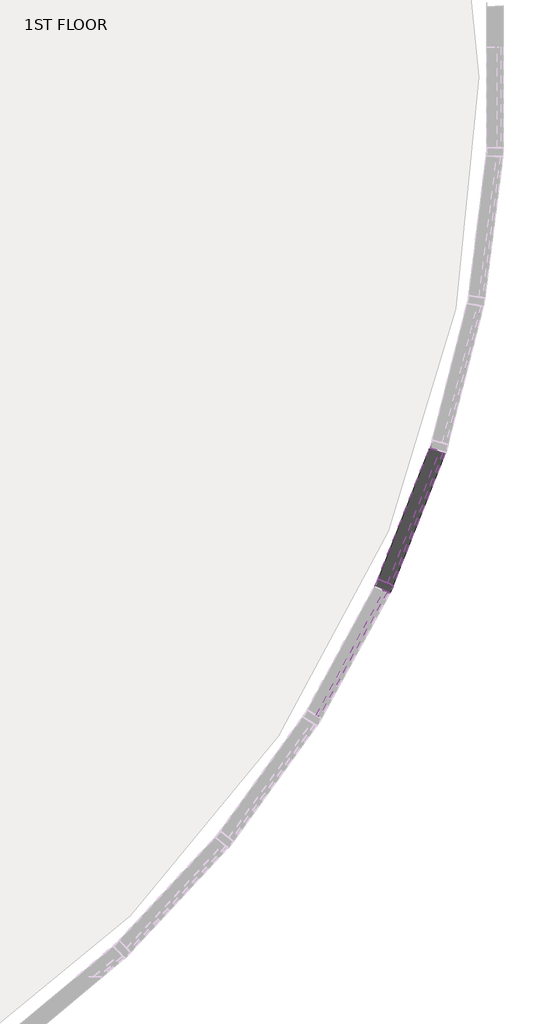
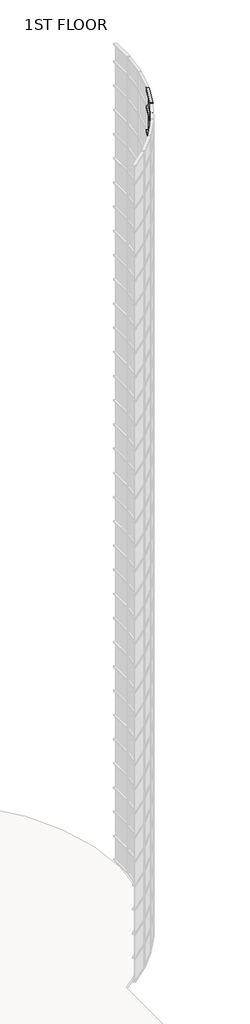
# One storey, part 7 of 17: 69 members, 50 plates.
"""IFC4 building model written with IfcOpenShell, lengths in millimetres."""

from ifc_helpers import new_model, si_unit, origin, place, context, project, spatial, transform, mapped, element, save
from components import member_56cb0dcd, member_0c249660, member_2b49869a, member_410c6227, system_panel_glazed_ce2914f7, system_panel_glazed_e049e42f, system_panel_glazed_5ae89cf9

model = new_model("IFC4")

# Units and contexts
model_context = context("Model", 3, world=origin())
ifc_project = project(units=[si_unit("LENGTHUNIT", "METRE", prefix="MILLI")], contexts=[model_context])

# Site, building, storey
site = spatial("IfcSite", under=ifc_project)
building = spatial("IfcBuilding", under=site)
storey = spatial("IfcBuildingStorey", under=building, Name="1ST FLOOR", Elevation=4572.0)

# Members
placement = place(None, origin())
member_shape = member_56cb0dcd(model_context)
element("IfcMember", 1, ObjectType="Rectangular Mullion : 2.5\" x 5\" rectangular", at=placement, inside=storey, context=model_context, shape_type="MappedRepresentation", body=[
    mapped(member_shape, transform((47410.1333063, 13010.247186, 45720.0), x_axis=(0.0, 0.0, 1.0), y_axis=(-0.9305499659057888, 0.3661649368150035, 0.0), z_axis=(-0.3661649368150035, -0.9305499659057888, 0.0))),
])
element("IfcMember", 2, ObjectType="Rectangular Mullion : 2.5\" x 5\" rectangular", at=placement, inside=storey, context=model_context, shape_type="MappedRepresentation", body=[
    mapped(member_shape, transform((47383.2901045, 12952.8366319, 4572.0), x_axis=(0.0, 0.0, -1.0), y_axis=(-0.8776564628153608, 0.4792902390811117, 0.0), z_axis=(0.4792902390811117, 0.8776564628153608, 0.0))),
])
member_2_shape = member_0c249660(model_context)
element("IfcMember", 3, ObjectType="Rectangular Mullion : 2.5\" x 5\" rectangular", at=placement, inside=storey, context=model_context, shape_type="MappedRepresentation", body=[
    mapped(member_2_shape, transform((47410.1333063, 13010.247186, 5791.2), x_axis=(0.0, 0.0, 1.0), y_axis=(-0.9305499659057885, 0.3661649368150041, 0.0), z_axis=(-0.36616493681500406, -0.9305499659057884, 0.0))),
])
element("IfcMember", 4, ObjectType="Rectangular Mullion : 2.5\" x 5\" rectangular", at=placement, inside=storey, context=model_context, shape_type="MappedRepresentation", body=[
    mapped(member_2_shape, transform((47410.1333063, 13010.247186, 7010.4), x_axis=(0.0, 0.0, 1.0), y_axis=(-0.9305499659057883, 0.36616493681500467, 0.0), z_axis=(-0.3661649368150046, -0.9305499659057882, 0.0))),
])
element("IfcMember", 5, ObjectType="Rectangular Mullion : 2.5\" x 5\" rectangular", at=placement, inside=storey, context=model_context, shape_type="MappedRepresentation", body=[
    mapped(member_2_shape, transform((47410.1333063, 13010.247186, 8229.6), x_axis=(0.0, 0.0, 1.0), y_axis=(-0.9305499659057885, 0.3661649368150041, 0.0), z_axis=(-0.36616493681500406, -0.9305499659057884, 0.0))),
])
element("IfcMember", 6, ObjectType="Rectangular Mullion : 2.5\" x 5\" rectangular", at=placement, inside=storey, context=model_context, shape_type="MappedRepresentation", body=[
    mapped(member_2_shape, transform((47410.1333063, 13010.247186, 9448.8), x_axis=(0.0, 0.0, 1.0), y_axis=(-0.9305499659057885, 0.3661649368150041, 0.0), z_axis=(-0.36616493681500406, -0.9305499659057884, 0.0))),
])
element("IfcMember", 7, ObjectType="Rectangular Mullion : 2.5\" x 5\" rectangular", at=placement, inside=storey, context=model_context, shape_type="MappedRepresentation", body=[
    mapped(member_2_shape, transform((47410.1333063, 13010.247186, 10668.0), x_axis=(0.0, 0.0, 1.0), y_axis=(-0.9305499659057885, 0.3661649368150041, 0.0), z_axis=(-0.36616493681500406, -0.9305499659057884, 0.0))),
])
element("IfcMember", 8, ObjectType="Rectangular Mullion : 2.5\" x 5\" rectangular", at=placement, inside=storey, context=model_context, shape_type="MappedRepresentation", body=[
    mapped(member_2_shape, transform((47410.1333063, 13010.247186, 11887.2), x_axis=(0.0, 0.0, 1.0), y_axis=(-0.9305499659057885, 0.3661649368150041, 0.0), z_axis=(-0.36616493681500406, -0.9305499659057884, 0.0))),
])
element("IfcMember", 9, ObjectType="Rectangular Mullion : 2.5\" x 5\" rectangular", at=placement, inside=storey, context=model_context, shape_type="MappedRepresentation", body=[
    mapped(member_2_shape, transform((47410.1333063, 13010.247186, 13106.4), x_axis=(0.0, 0.0, 1.0), y_axis=(-0.9305499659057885, 0.3661649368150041, 0.0), z_axis=(-0.36616493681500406, -0.9305499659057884, 0.0))),
])
element("IfcMember", 10, ObjectType="Rectangular Mullion : 2.5\" x 5\" rectangular", at=placement, inside=storey, context=model_context, shape_type="MappedRepresentation", body=[
    mapped(member_2_shape, transform((47410.1333063, 13010.247186, 14325.6), x_axis=(0.0, 0.0, 1.0), y_axis=(-0.9305499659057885, 0.3661649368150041, 0.0), z_axis=(-0.36616493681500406, -0.9305499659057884, 0.0))),
])
element("IfcMember", 11, ObjectType="Rectangular Mullion : 2.5\" x 5\" rectangular", at=placement, inside=storey, context=model_context, shape_type="MappedRepresentation", body=[
    mapped(member_2_shape, transform((47410.1333063, 13010.247186, 15544.8), x_axis=(0.0, 0.0, 1.0), y_axis=(-0.9305499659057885, 0.3661649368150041, 0.0), z_axis=(-0.36616493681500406, -0.9305499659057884, 0.0))),
])
element("IfcMember", 12, ObjectType="Rectangular Mullion : 2.5\" x 5\" rectangular", at=placement, inside=storey, context=model_context, shape_type="MappedRepresentation", body=[
    mapped(member_2_shape, transform((47410.1333063, 13010.247186, 16764.0), x_axis=(0.0, 0.0, 1.0), y_axis=(-0.9305499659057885, 0.3661649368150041, 0.0), z_axis=(-0.36616493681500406, -0.9305499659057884, 0.0))),
])
element("IfcMember", 13, ObjectType="Rectangular Mullion : 2.5\" x 5\" rectangular", at=placement, inside=storey, context=model_context, shape_type="MappedRepresentation", body=[
    mapped(member_2_shape, transform((47410.1333063, 13010.247186, 17983.2), x_axis=(0.0, 0.0, 1.0), y_axis=(-0.9305499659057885, 0.3661649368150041, 0.0), z_axis=(-0.36616493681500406, -0.9305499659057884, 0.0))),
])
element("IfcMember", 14, ObjectType="Rectangular Mullion : 2.5\" x 5\" rectangular", at=placement, inside=storey, context=model_context, shape_type="MappedRepresentation", body=[
    mapped(member_2_shape, transform((47410.1333063, 13010.247186, 19202.4), x_axis=(0.0, 0.0, 1.0), y_axis=(-0.930549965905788, 0.3661649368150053, 0.0), z_axis=(-0.3661649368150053, -0.930549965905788, 0.0))),
])
element("IfcMember", 15, ObjectType="Rectangular Mullion : 2.5\" x 5\" rectangular", at=placement, inside=storey, context=model_context, shape_type="MappedRepresentation", body=[
    mapped(member_2_shape, transform((47410.1333063, 13010.247186, 20421.6), x_axis=(0.0, 0.0, 1.0), y_axis=(-0.9305499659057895, 0.3661649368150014, 0.0), z_axis=(-0.36616493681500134, -0.9305499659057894, 0.0))),
])
element("IfcMember", 16, ObjectType="Rectangular Mullion : 2.5\" x 5\" rectangular", at=placement, inside=storey, context=model_context, shape_type="MappedRepresentation", body=[
    mapped(member_2_shape, transform((47410.1333063, 13010.247186, 21640.8), x_axis=(0.0, 0.0, 1.0), y_axis=(-0.9305499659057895, 0.3661649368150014, 0.0), z_axis=(-0.36616493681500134, -0.9305499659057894, 0.0))),
])
element("IfcMember", 17, ObjectType="Rectangular Mullion : 2.5\" x 5\" rectangular", at=placement, inside=storey, context=model_context, shape_type="MappedRepresentation", body=[
    mapped(member_2_shape, transform((47410.1333063, 13010.247186, 22860.0), x_axis=(0.0, 0.0, 1.0), y_axis=(-0.9305499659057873, 0.3661649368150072, 0.0), z_axis=(-0.3661649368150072, -0.9305499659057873, 0.0))),
])
element("IfcMember", 18, ObjectType="Rectangular Mullion : 2.5\" x 5\" rectangular", at=placement, inside=storey, context=model_context, shape_type="MappedRepresentation", body=[
    mapped(member_2_shape, transform((47410.1333063, 13010.247186, 24079.2), x_axis=(0.0, 0.0, 1.0), y_axis=(-0.9305499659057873, 0.3661649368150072, 0.0), z_axis=(-0.3661649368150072, -0.9305499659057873, 0.0))),
])
element("IfcMember", 19, ObjectType="Rectangular Mullion : 2.5\" x 5\" rectangular", at=placement, inside=storey, context=model_context, shape_type="MappedRepresentation", body=[
    mapped(member_2_shape, transform((47410.1333063, 13010.247186, 25298.4), x_axis=(0.0, 0.0, 1.0), y_axis=(-0.9305499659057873, 0.3661649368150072, 0.0), z_axis=(-0.3661649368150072, -0.9305499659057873, 0.0))),
])
element("IfcMember", 20, ObjectType="Rectangular Mullion : 2.5\" x 5\" rectangular", at=placement, inside=storey, context=model_context, shape_type="MappedRepresentation", body=[
    mapped(member_2_shape, transform((47410.1333063, 13010.247186, 26517.6), x_axis=(0.0, 0.0, 1.0), y_axis=(-0.9305499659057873, 0.3661649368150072, 0.0), z_axis=(-0.3661649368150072, -0.9305499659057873, 0.0))),
])
element("IfcMember", 21, ObjectType="Rectangular Mullion : 2.5\" x 5\" rectangular", at=placement, inside=storey, context=model_context, shape_type="MappedRepresentation", body=[
    mapped(member_2_shape, transform((47410.1333063, 13010.247186, 27736.8), x_axis=(0.0, 0.0, 1.0), y_axis=(-0.9305499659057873, 0.3661649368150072, 0.0), z_axis=(-0.3661649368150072, -0.9305499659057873, 0.0))),
])
element("IfcMember", 22, ObjectType="Rectangular Mullion : 2.5\" x 5\" rectangular", at=placement, inside=storey, context=model_context, shape_type="MappedRepresentation", body=[
    mapped(member_2_shape, transform((47410.1333063, 13010.247186, 28956.0), x_axis=(0.0, 0.0, 1.0), y_axis=(-0.9305499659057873, 0.3661649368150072, 0.0), z_axis=(-0.3661649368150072, -0.9305499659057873, 0.0))),
])
element("IfcMember", 23, ObjectType="Rectangular Mullion : 2.5\" x 5\" rectangular", at=placement, inside=storey, context=model_context, shape_type="MappedRepresentation", body=[
    mapped(member_2_shape, transform((47410.1333063, 13010.247186, 30175.2), x_axis=(0.0, 0.0, 1.0), y_axis=(-0.9305499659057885, 0.3661649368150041, 0.0), z_axis=(-0.36616493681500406, -0.9305499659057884, 0.0))),
])
element("IfcMember", 24, ObjectType="Rectangular Mullion : 2.5\" x 5\" rectangular", at=placement, inside=storey, context=model_context, shape_type="MappedRepresentation", body=[
    mapped(member_2_shape, transform((47410.1333063, 13010.247186, 31394.4), x_axis=(0.0, 0.0, 1.0), y_axis=(-0.9305499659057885, 0.3661649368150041, 0.0), z_axis=(-0.36616493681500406, -0.9305499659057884, 0.0))),
])
element("IfcMember", 25, ObjectType="Rectangular Mullion : 2.5\" x 5\" rectangular", at=placement, inside=storey, context=model_context, shape_type="MappedRepresentation", body=[
    mapped(member_2_shape, transform((47410.1333063, 13010.247186, 32613.6), x_axis=(0.0, 0.0, 1.0), y_axis=(-0.9305499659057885, 0.3661649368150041, 0.0), z_axis=(-0.36616493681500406, -0.9305499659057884, 0.0))),
])
element("IfcMember", 26, ObjectType="Rectangular Mullion : 2.5\" x 5\" rectangular", at=placement, inside=storey, context=model_context, shape_type="MappedRepresentation", body=[
    mapped(member_2_shape, transform((47410.1333063, 13010.247186, 33832.8), x_axis=(0.0, 0.0, 1.0), y_axis=(-0.9305499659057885, 0.3661649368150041, 0.0), z_axis=(-0.36616493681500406, -0.9305499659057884, 0.0))),
])
element("IfcMember", 27, ObjectType="Rectangular Mullion : 2.5\" x 5\" rectangular", at=placement, inside=storey, context=model_context, shape_type="MappedRepresentation", body=[
    mapped(member_2_shape, transform((47410.1333063, 13010.247186, 35052.0), x_axis=(0.0, 0.0, 1.0), y_axis=(-0.9305499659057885, 0.3661649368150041, 0.0), z_axis=(-0.36616493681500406, -0.9305499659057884, 0.0))),
])
element("IfcMember", 28, ObjectType="Rectangular Mullion : 2.5\" x 5\" rectangular", at=placement, inside=storey, context=model_context, shape_type="MappedRepresentation", body=[
    mapped(member_2_shape, transform((47410.1333063, 13010.247186, 36271.2), x_axis=(0.0, 0.0, 1.0), y_axis=(-0.9305499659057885, 0.3661649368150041, 0.0), z_axis=(-0.36616493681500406, -0.9305499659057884, 0.0))),
])
element("IfcMember", 29, ObjectType="Rectangular Mullion : 2.5\" x 5\" rectangular", at=placement, inside=storey, context=model_context, shape_type="MappedRepresentation", body=[
    mapped(member_2_shape, transform((47410.1333063, 13010.247186, 37490.4), x_axis=(0.0, 0.0, 1.0), y_axis=(-0.9305499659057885, 0.3661649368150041, 0.0), z_axis=(-0.36616493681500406, -0.9305499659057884, 0.0))),
])
element("IfcMember", 30, ObjectType="Rectangular Mullion : 2.5\" x 5\" rectangular", at=placement, inside=storey, context=model_context, shape_type="MappedRepresentation", body=[
    mapped(member_2_shape, transform((47410.1333063, 13010.247186, 38709.6), x_axis=(0.0, 0.0, 1.0), y_axis=(-0.930549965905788, 0.3661649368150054, 0.0), z_axis=(-0.36616493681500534, -0.9305499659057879, 0.0))),
])
element("IfcMember", 31, ObjectType="Rectangular Mullion : 2.5\" x 5\" rectangular", at=placement, inside=storey, context=model_context, shape_type="MappedRepresentation", body=[
    mapped(member_2_shape, transform((47410.1333063, 13010.247186, 39928.8), x_axis=(0.0, 0.0, 1.0), y_axis=(-0.930549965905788, 0.3661649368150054, 0.0), z_axis=(-0.36616493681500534, -0.9305499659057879, 0.0))),
])
element("IfcMember", 32, ObjectType="Rectangular Mullion : 2.5\" x 5\" rectangular", at=placement, inside=storey, context=model_context, shape_type="MappedRepresentation", body=[
    mapped(member_2_shape, transform((47410.1333063, 13010.247186, 41148.0), x_axis=(0.0, 0.0, 1.0), y_axis=(-0.930549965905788, 0.3661649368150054, 0.0), z_axis=(-0.36616493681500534, -0.9305499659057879, 0.0))),
])
element("IfcMember", 33, ObjectType="Rectangular Mullion : 2.5\" x 5\" rectangular", at=placement, inside=storey, context=model_context, shape_type="MappedRepresentation", body=[
    mapped(member_2_shape, transform((47410.1333063, 13010.247186, 42367.2), x_axis=(0.0, 0.0, 1.0), y_axis=(-0.930549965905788, 0.3661649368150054, 0.0), z_axis=(-0.36616493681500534, -0.9305499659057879, 0.0))),
])
element("IfcMember", 34, ObjectType="Rectangular Mullion : 2.5\" x 5\" rectangular", at=placement, inside=storey, context=model_context, shape_type="MappedRepresentation", body=[
    mapped(member_2_shape, transform((47410.1333063, 13010.247186, 43586.4), x_axis=(0.0, 0.0, 1.0), y_axis=(-0.930549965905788, 0.3661649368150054, 0.0), z_axis=(-0.36616493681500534, -0.9305499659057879, 0.0))),
])
element("IfcMember", 35, ObjectType="Rectangular Mullion : 2.5\" x 5\" rectangular", at=placement, inside=storey, context=model_context, shape_type="MappedRepresentation", body=[
    mapped(member_2_shape, transform((47410.1333063, 13010.247186, 44805.6), x_axis=(0.0, 0.0, 1.0), y_axis=(-0.930549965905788, 0.3661649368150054, 0.0), z_axis=(-0.36616493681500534, -0.9305499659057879, 0.0))),
])
member_3_shape = member_2b49869a(model_context)
element("IfcMember", 36, ObjectType="Rectangular Mullion : 2.5\" x 5\" rectangular", at=placement, inside=storey, context=model_context, shape_type="MappedRepresentation", body=[
    mapped(member_3_shape, transform((47398.5075696, 12980.7022246, 4572.0), x_axis=(-0.4235540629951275, -0.905870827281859, 0.0), y_axis=(-0.905870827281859, 0.4235540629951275, 0.0), z_axis=(0.0, 0.0, -1.0))),
])
element("IfcMember", 37, ObjectType="Rectangular Mullion : 2.5\" x 5\" rectangular", at=placement, inside=storey, context=model_context, shape_type="MappedRepresentation", body=[
    mapped(member_3_shape, transform((47398.5075696, 12980.7022246, 5791.2), x_axis=(-0.42355406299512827, -0.9058708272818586, 0.0), y_axis=(-0.9058708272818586, 0.42355406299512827, 0.0), z_axis=(0.0, 0.0, -1.0))),
])
element("IfcMember", 38, ObjectType="Rectangular Mullion : 2.5\" x 5\" rectangular", at=placement, inside=storey, context=model_context, shape_type="MappedRepresentation", body=[
    mapped(member_3_shape, transform((47398.5075696, 12980.7022246, 7010.4), x_axis=(-0.42355406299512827, -0.9058708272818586, 0.0), y_axis=(-0.9058708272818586, 0.42355406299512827, 0.0), z_axis=(0.0, 0.0, -1.0))),
])
element("IfcMember", 39, ObjectType="Rectangular Mullion : 2.5\" x 5\" rectangular", at=placement, inside=storey, context=model_context, shape_type="MappedRepresentation", body=[
    mapped(member_3_shape, transform((47398.5075696, 12980.7022246, 8229.6), x_axis=(-0.42355406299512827, -0.9058708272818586, 0.0), y_axis=(-0.9058708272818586, 0.42355406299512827, 0.0), z_axis=(0.0, 0.0, -1.0))),
])
element("IfcMember", 40, ObjectType="Rectangular Mullion : 2.5\" x 5\" rectangular", at=placement, inside=storey, context=model_context, shape_type="MappedRepresentation", body=[
    mapped(member_3_shape, transform((47398.5075696, 12980.7022246, 9448.8), x_axis=(-0.42355406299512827, -0.9058708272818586, 0.0), y_axis=(-0.9058708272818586, 0.42355406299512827, 0.0), z_axis=(0.0, 0.0, -1.0))),
])
element("IfcMember", 41, ObjectType="Rectangular Mullion : 2.5\" x 5\" rectangular", at=placement, inside=storey, context=model_context, shape_type="MappedRepresentation", body=[
    mapped(member_3_shape, transform((47398.5075696, 12980.7022246, 10668.0), x_axis=(-0.42355406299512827, -0.9058708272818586, 0.0), y_axis=(-0.9058708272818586, 0.42355406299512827, 0.0), z_axis=(0.0, 0.0, -1.0))),
])
element("IfcMember", 42, ObjectType="Rectangular Mullion : 2.5\" x 5\" rectangular", at=placement, inside=storey, context=model_context, shape_type="MappedRepresentation", body=[
    mapped(member_3_shape, transform((47398.5075696, 12980.7022246, 11887.2), x_axis=(-0.42355406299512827, -0.9058708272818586, 0.0), y_axis=(-0.9058708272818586, 0.42355406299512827, 0.0), z_axis=(0.0, 0.0, -1.0))),
])
element("IfcMember", 43, ObjectType="Rectangular Mullion : 2.5\" x 5\" rectangular", at=placement, inside=storey, context=model_context, shape_type="MappedRepresentation", body=[
    mapped(member_3_shape, transform((47398.5075696, 12980.7022246, 13106.4), x_axis=(-0.4235540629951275, -0.905870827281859, 0.0), y_axis=(-0.905870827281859, 0.4235540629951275, 0.0), z_axis=(0.0, 0.0, -1.0))),
])
element("IfcMember", 44, ObjectType="Rectangular Mullion : 2.5\" x 5\" rectangular", at=placement, inside=storey, context=model_context, shape_type="MappedRepresentation", body=[
    mapped(member_3_shape, transform((47398.5075696, 12980.7022246, 14325.6), x_axis=(-0.4235540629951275, -0.905870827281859, 0.0), y_axis=(-0.905870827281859, 0.4235540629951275, 0.0), z_axis=(0.0, 0.0, -1.0))),
])
element("IfcMember", 45, ObjectType="Rectangular Mullion : 2.5\" x 5\" rectangular", at=placement, inside=storey, context=model_context, shape_type="MappedRepresentation", body=[
    mapped(member_3_shape, transform((47398.5075696, 12980.7022246, 15544.8), x_axis=(-0.4235540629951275, -0.905870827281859, 0.0), y_axis=(-0.905870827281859, 0.4235540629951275, 0.0), z_axis=(0.0, 0.0, -1.0))),
])
element("IfcMember", 46, ObjectType="Rectangular Mullion : 2.5\" x 5\" rectangular", at=placement, inside=storey, context=model_context, shape_type="MappedRepresentation", body=[
    mapped(member_3_shape, transform((47398.5075696, 12980.7022246, 16764.0), x_axis=(-0.4235540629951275, -0.905870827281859, 0.0), y_axis=(-0.905870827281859, 0.4235540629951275, 0.0), z_axis=(0.0, 0.0, -1.0))),
])
element("IfcMember", 47, ObjectType="Rectangular Mullion : 2.5\" x 5\" rectangular", at=placement, inside=storey, context=model_context, shape_type="MappedRepresentation", body=[
    mapped(member_3_shape, transform((47398.5075696, 12980.7022246, 17983.2), x_axis=(-0.4235540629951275, -0.905870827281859, 0.0), y_axis=(-0.905870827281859, 0.4235540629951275, 0.0), z_axis=(0.0, 0.0, -1.0))),
])
element("IfcMember", 48, ObjectType="Rectangular Mullion : 2.5\" x 5\" rectangular", at=placement, inside=storey, context=model_context, shape_type="MappedRepresentation", body=[
    mapped(member_3_shape, transform((47398.5075696, 12980.7022246, 19202.4), x_axis=(-0.4235540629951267, -0.9058708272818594, 0.0), y_axis=(-0.9058708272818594, 0.4235540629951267, 0.0), z_axis=(0.0, 0.0, -1.0))),
])
element("IfcMember", 49, ObjectType="Rectangular Mullion : 2.5\" x 5\" rectangular", at=placement, inside=storey, context=model_context, shape_type="MappedRepresentation", body=[
    mapped(member_3_shape, transform((47398.5075696, 12980.7022246, 20421.6), x_axis=(-0.4235540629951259, -0.9058708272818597, 0.0), y_axis=(-0.9058708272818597, 0.4235540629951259, 0.0), z_axis=(0.0, 0.0, -1.0))),
])
element("IfcMember", 50, ObjectType="Rectangular Mullion : 2.5\" x 5\" rectangular", at=placement, inside=storey, context=model_context, shape_type="MappedRepresentation", body=[
    mapped(member_3_shape, transform((47398.5075696, 12980.7022246, 21640.8), x_axis=(-0.4235540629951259, -0.9058708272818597, 0.0), y_axis=(-0.9058708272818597, 0.4235540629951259, 0.0), z_axis=(0.0, 0.0, -1.0))),
])
element("IfcMember", 51, ObjectType="Rectangular Mullion : 2.5\" x 5\" rectangular", at=placement, inside=storey, context=model_context, shape_type="MappedRepresentation", body=[
    mapped(member_3_shape, transform((47398.5075696, 12980.7022246, 22860.0), x_axis=(-0.4235540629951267, -0.9058708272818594, 0.0), y_axis=(-0.9058708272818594, 0.4235540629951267, 0.0), z_axis=(0.0, 0.0, -1.0))),
])
element("IfcMember", 52, ObjectType="Rectangular Mullion : 2.5\" x 5\" rectangular", at=placement, inside=storey, context=model_context, shape_type="MappedRepresentation", body=[
    mapped(member_3_shape, transform((47398.5075696, 12980.7022246, 24079.2), x_axis=(-0.4235540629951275, -0.905870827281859, 0.0), y_axis=(-0.905870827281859, 0.4235540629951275, 0.0), z_axis=(0.0, 0.0, -1.0))),
])
element("IfcMember", 53, ObjectType="Rectangular Mullion : 2.5\" x 5\" rectangular", at=placement, inside=storey, context=model_context, shape_type="MappedRepresentation", body=[
    mapped(member_3_shape, transform((47398.5075696, 12980.7022246, 25298.4), x_axis=(-0.4235540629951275, -0.905870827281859, 0.0), y_axis=(-0.905870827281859, 0.4235540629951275, 0.0), z_axis=(0.0, 0.0, -1.0))),
])
element("IfcMember", 54, ObjectType="Rectangular Mullion : 2.5\" x 5\" rectangular", at=placement, inside=storey, context=model_context, shape_type="MappedRepresentation", body=[
    mapped(member_3_shape, transform((47398.5075696, 12980.7022246, 26517.6), x_axis=(-0.4235540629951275, -0.905870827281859, 0.0), y_axis=(-0.905870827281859, 0.4235540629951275, 0.0), z_axis=(0.0, 0.0, -1.0))),
])
element("IfcMember", 55, ObjectType="Rectangular Mullion : 2.5\" x 5\" rectangular", at=placement, inside=storey, context=model_context, shape_type="MappedRepresentation", body=[
    mapped(member_3_shape, transform((47398.5075696, 12980.7022246, 27736.8), x_axis=(-0.4235540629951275, -0.905870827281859, 0.0), y_axis=(-0.905870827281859, 0.4235540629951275, 0.0), z_axis=(0.0, 0.0, -1.0))),
])
element("IfcMember", 56, ObjectType="Rectangular Mullion : 2.5\" x 5\" rectangular", at=placement, inside=storey, context=model_context, shape_type="MappedRepresentation", body=[
    mapped(member_3_shape, transform((47398.5075696, 12980.7022246, 28956.0), x_axis=(-0.4235540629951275, -0.905870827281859, 0.0), y_axis=(-0.905870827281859, 0.4235540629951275, 0.0), z_axis=(0.0, 0.0, -1.0))),
])
element("IfcMember", 57, ObjectType="Rectangular Mullion : 2.5\" x 5\" rectangular", at=placement, inside=storey, context=model_context, shape_type="MappedRepresentation", body=[
    mapped(member_3_shape, transform((47398.5075696, 12980.7022246, 30175.2), x_axis=(-0.42355406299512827, -0.9058708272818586, 0.0), y_axis=(-0.9058708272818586, 0.42355406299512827, 0.0), z_axis=(0.0, 0.0, -1.0))),
])
element("IfcMember", 58, ObjectType="Rectangular Mullion : 2.5\" x 5\" rectangular", at=placement, inside=storey, context=model_context, shape_type="MappedRepresentation", body=[
    mapped(member_3_shape, transform((47398.5075696, 12980.7022246, 31394.4), x_axis=(-0.42355406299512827, -0.9058708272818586, 0.0), y_axis=(-0.9058708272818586, 0.42355406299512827, 0.0), z_axis=(0.0, 0.0, -1.0))),
])
element("IfcMember", 59, ObjectType="Rectangular Mullion : 2.5\" x 5\" rectangular", at=placement, inside=storey, context=model_context, shape_type="MappedRepresentation", body=[
    mapped(member_3_shape, transform((47398.5075696, 12980.7022246, 32613.6), x_axis=(-0.42355406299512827, -0.9058708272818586, 0.0), y_axis=(-0.9058708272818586, 0.42355406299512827, 0.0), z_axis=(0.0, 0.0, -1.0))),
])
element("IfcMember", 60, ObjectType="Rectangular Mullion : 2.5\" x 5\" rectangular", at=placement, inside=storey, context=model_context, shape_type="MappedRepresentation", body=[
    mapped(member_3_shape, transform((47398.5075696, 12980.7022246, 33832.8), x_axis=(-0.42355406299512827, -0.9058708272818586, 0.0), y_axis=(-0.9058708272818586, 0.42355406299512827, 0.0), z_axis=(0.0, 0.0, -1.0))),
])
element("IfcMember", 61, ObjectType="Rectangular Mullion : 2.5\" x 5\" rectangular", at=placement, inside=storey, context=model_context, shape_type="MappedRepresentation", body=[
    mapped(member_3_shape, transform((47398.5075696, 12980.7022246, 35052.0), x_axis=(-0.42355406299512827, -0.9058708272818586, 0.0), y_axis=(-0.9058708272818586, 0.42355406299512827, 0.0), z_axis=(0.0, 0.0, -1.0))),
])
element("IfcMember", 62, ObjectType="Rectangular Mullion : 2.5\" x 5\" rectangular", at=placement, inside=storey, context=model_context, shape_type="MappedRepresentation", body=[
    mapped(member_3_shape, transform((47398.5075696, 12980.7022246, 36271.2), x_axis=(-0.42355406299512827, -0.9058708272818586, 0.0), y_axis=(-0.9058708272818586, 0.42355406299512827, 0.0), z_axis=(0.0, 0.0, -1.0))),
])
element("IfcMember", 63, ObjectType="Rectangular Mullion : 2.5\" x 5\" rectangular", at=placement, inside=storey, context=model_context, shape_type="MappedRepresentation", body=[
    mapped(member_3_shape, transform((47398.5075696, 12980.7022246, 37490.4), x_axis=(-0.42355406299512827, -0.9058708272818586, 0.0), y_axis=(-0.9058708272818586, 0.42355406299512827, 0.0), z_axis=(0.0, 0.0, -1.0))),
])
element("IfcMember", 64, ObjectType="Rectangular Mullion : 2.5\" x 5\" rectangular", at=placement, inside=storey, context=model_context, shape_type="MappedRepresentation", body=[
    mapped(member_3_shape, transform((47398.5075696, 12980.7022246, 38709.6), x_axis=(-0.42355406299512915, -0.9058708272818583, 0.0), y_axis=(-0.9058708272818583, 0.42355406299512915, 0.0), z_axis=(0.0, 0.0, -1.0))),
])
element("IfcMember", 65, ObjectType="Rectangular Mullion : 2.5\" x 5\" rectangular", at=placement, inside=storey, context=model_context, shape_type="MappedRepresentation", body=[
    mapped(member_3_shape, transform((47398.5075696, 12980.7022246, 39928.8), x_axis=(-0.42355406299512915, -0.9058708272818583, 0.0), y_axis=(-0.9058708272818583, 0.42355406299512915, 0.0), z_axis=(0.0, 0.0, -1.0))),
])
element("IfcMember", 66, ObjectType="Rectangular Mullion : 2.5\" x 5\" rectangular", at=placement, inside=storey, context=model_context, shape_type="MappedRepresentation", body=[
    mapped(member_3_shape, transform((47398.5075696, 12980.7022246, 41148.0), x_axis=(-0.42355406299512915, -0.9058708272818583, 0.0), y_axis=(-0.9058708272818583, 0.42355406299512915, 0.0), z_axis=(0.0, 0.0, -1.0))),
])
element("IfcMember", 67, ObjectType="Rectangular Mullion : 2.5\" x 5\" rectangular", at=placement, inside=storey, context=model_context, shape_type="MappedRepresentation", body=[
    mapped(member_3_shape, transform((47398.5075696, 12980.7022246, 42367.2), x_axis=(-0.42355406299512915, -0.9058708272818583, 0.0), y_axis=(-0.9058708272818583, 0.42355406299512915, 0.0), z_axis=(0.0, 0.0, -1.0))),
])
element("IfcMember", 68, ObjectType="Rectangular Mullion : 2.5\" x 5\" rectangular", at=placement, inside=storey, context=model_context, shape_type="MappedRepresentation", body=[
    mapped(member_3_shape, transform((47398.5075696, 12980.7022246, 43586.4), x_axis=(-0.42355406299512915, -0.9058708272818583, 0.0), y_axis=(-0.9058708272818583, 0.42355406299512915, 0.0), z_axis=(0.0, 0.0, -1.0))),
])
member_4_shape = member_410c6227(model_context)
element("IfcMember", 69, ObjectType="Rectangular Mullion : 2.5\" x 5\" rectangular", at=placement, inside=storey, context=model_context, shape_type="MappedRepresentation", body=[
    mapped(member_4_shape, transform((47398.5075696, 12980.7022246, 44805.6), x_axis=(-0.4235540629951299, -0.9058708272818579, 0.0), y_axis=(-0.9058708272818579, 0.4235540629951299, 0.0), z_axis=(0.0, 0.0, -1.0))),
])

# Plates
system_panel_glazed_shape = system_panel_glazed_ce2914f7(model_context)
element("IfcPlate", 70, ObjectType="System Panel : Glazed", at=placement, inside=storey, context=model_context, shape_type="MappedRepresentation", body=[
    mapped(system_panel_glazed_shape, transform((47967.3625719, 14624.0059579, 4635.5), x_axis=(-0.24732927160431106, -0.9689314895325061, 0.0), y_axis=(0.9689314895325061, -0.24732927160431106, 0.0), z_axis=(0.0, 0.0, 1.0))),
])
element("IfcPlate", 71, ObjectType="System Panel : Glazed", at=placement, inside=storey, context=model_context, shape_type="MappedRepresentation", body=[
    mapped(system_panel_glazed_shape, transform((47611.1271904, 13521.0411839, 4635.5), x_axis=(-0.36616493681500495, -0.9305499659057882, 0.0), y_axis=(0.9305499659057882, -0.36616493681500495, 0.0), z_axis=(0.0, 0.0, 1.0))),
])
system_panel_glazed_2_shape = system_panel_glazed_e049e42f(model_context)
element("IfcPlate", 72, ObjectType="System Panel : Glazed", at=placement, inside=storey, context=model_context, shape_type="MappedRepresentation", body=[
    mapped(system_panel_glazed_2_shape, transform((47967.3625719, 14624.0059579, 5822.95), x_axis=(-0.24732927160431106, -0.9689314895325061, 0.0), y_axis=(0.9689314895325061, -0.24732927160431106, 0.0), z_axis=(0.0, 0.0, 1.0))),
])
element("IfcPlate", 73, ObjectType="System Panel : Glazed", at=placement, inside=storey, context=model_context, shape_type="MappedRepresentation", body=[
    mapped(system_panel_glazed_2_shape, transform((47611.1271904, 13521.0411839, 5822.95), x_axis=(-0.366164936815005, -0.9305499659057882, 0.0), y_axis=(0.9305499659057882, -0.366164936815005, 0.0), z_axis=(0.0, 0.0, 1.0))),
])
element("IfcPlate", 74, ObjectType="System Panel : Glazed", at=placement, inside=storey, context=model_context, shape_type="MappedRepresentation", body=[
    mapped(system_panel_glazed_2_shape, transform((47967.3625719, 14624.0059579, 7042.15), x_axis=(-0.24732927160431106, -0.9689314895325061, 0.0), y_axis=(0.9689314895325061, -0.24732927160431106, 0.0), z_axis=(0.0, 0.0, 1.0))),
])
element("IfcPlate", 75, ObjectType="System Panel : Glazed", at=placement, inside=storey, context=model_context, shape_type="MappedRepresentation", body=[
    mapped(system_panel_glazed_2_shape, transform((47611.1271904, 13521.0411839, 7042.15), x_axis=(-0.366164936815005, -0.9305499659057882, 0.0), y_axis=(0.9305499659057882, -0.366164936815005, 0.0), z_axis=(0.0, 0.0, 1.0))),
])
element("IfcPlate", 76, ObjectType="System Panel : Glazed", at=placement, inside=storey, context=model_context, shape_type="MappedRepresentation", body=[
    mapped(system_panel_glazed_2_shape, transform((47967.3625719, 14624.0059579, 8261.35), x_axis=(-0.24732927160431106, -0.9689314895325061, 0.0), y_axis=(0.9689314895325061, -0.24732927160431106, 0.0), z_axis=(0.0, 0.0, 1.0))),
])
element("IfcPlate", 77, ObjectType="System Panel : Glazed", at=placement, inside=storey, context=model_context, shape_type="MappedRepresentation", body=[
    mapped(system_panel_glazed_2_shape, transform((47611.1271904, 13521.0411839, 8261.35), x_axis=(-0.366164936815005, -0.9305499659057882, 0.0), y_axis=(0.9305499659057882, -0.366164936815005, 0.0), z_axis=(0.0, 0.0, 1.0))),
])
element("IfcPlate", 78, ObjectType="System Panel : Glazed", at=placement, inside=storey, context=model_context, shape_type="MappedRepresentation", body=[
    mapped(system_panel_glazed_2_shape, transform((47967.3625719, 14624.0059579, 9480.55), x_axis=(-0.24732927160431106, -0.9689314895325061, 0.0), y_axis=(0.9689314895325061, -0.24732927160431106, 0.0), z_axis=(0.0, 0.0, 1.0))),
])
element("IfcPlate", 79, ObjectType="System Panel : Glazed", at=placement, inside=storey, context=model_context, shape_type="MappedRepresentation", body=[
    mapped(system_panel_glazed_2_shape, transform((47611.1271904, 13521.0411839, 9480.55), x_axis=(-0.366164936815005, -0.9305499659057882, 0.0), y_axis=(0.9305499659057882, -0.366164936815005, 0.0), z_axis=(0.0, 0.0, 1.0))),
])
element("IfcPlate", 80, ObjectType="System Panel : Glazed", at=placement, inside=storey, context=model_context, shape_type="MappedRepresentation", body=[
    mapped(system_panel_glazed_2_shape, transform((47967.3625719, 14624.0059579, 10699.75), x_axis=(-0.24732927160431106, -0.9689314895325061, 0.0), y_axis=(0.9689314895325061, -0.24732927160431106, 0.0), z_axis=(0.0, 0.0, 1.0))),
])
element("IfcPlate", 81, ObjectType="System Panel : Glazed", at=placement, inside=storey, context=model_context, shape_type="MappedRepresentation", body=[
    mapped(system_panel_glazed_2_shape, transform((47611.1271904, 13521.0411839, 10699.75), x_axis=(-0.366164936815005, -0.9305499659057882, 0.0), y_axis=(0.9305499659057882, -0.366164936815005, 0.0), z_axis=(0.0, 0.0, 1.0))),
])
element("IfcPlate", 82, ObjectType="System Panel : Glazed", at=placement, inside=storey, context=model_context, shape_type="MappedRepresentation", body=[
    mapped(system_panel_glazed_2_shape, transform((47967.3625719, 14624.0059579, 11918.95), x_axis=(-0.24732927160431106, -0.9689314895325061, 0.0), y_axis=(0.9689314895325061, -0.24732927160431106, 0.0), z_axis=(0.0, 0.0, 1.0))),
])
element("IfcPlate", 83, ObjectType="System Panel : Glazed", at=placement, inside=storey, context=model_context, shape_type="MappedRepresentation", body=[
    mapped(system_panel_glazed_2_shape, transform((47611.1271904, 13521.0411839, 11918.95), x_axis=(-0.366164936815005, -0.9305499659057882, 0.0), y_axis=(0.9305499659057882, -0.366164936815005, 0.0), z_axis=(0.0, 0.0, 1.0))),
])
element("IfcPlate", 84, ObjectType="System Panel : Glazed", at=placement, inside=storey, context=model_context, shape_type="MappedRepresentation", body=[
    mapped(system_panel_glazed_2_shape, transform((47967.3625719, 14624.0059579, 13138.15), x_axis=(-0.24732927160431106, -0.9689314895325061, 0.0), y_axis=(0.9689314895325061, -0.24732927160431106, 0.0), z_axis=(0.0, 0.0, 1.0))),
])
element("IfcPlate", 85, ObjectType="System Panel : Glazed", at=placement, inside=storey, context=model_context, shape_type="MappedRepresentation", body=[
    mapped(system_panel_glazed_2_shape, transform((47611.1271904, 13521.0411839, 13138.15), x_axis=(-0.366164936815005, -0.9305499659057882, 0.0), y_axis=(0.9305499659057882, -0.366164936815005, 0.0), z_axis=(0.0, 0.0, 1.0))),
])
element("IfcPlate", 86, ObjectType="System Panel : Glazed", at=placement, inside=storey, context=model_context, shape_type="MappedRepresentation", body=[
    mapped(system_panel_glazed_2_shape, transform((47967.3625719, 14624.0059579, 14357.35), x_axis=(-0.24732927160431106, -0.9689314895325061, 0.0), y_axis=(0.9689314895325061, -0.24732927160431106, 0.0), z_axis=(0.0, 0.0, 1.0))),
])
element("IfcPlate", 87, ObjectType="System Panel : Glazed", at=placement, inside=storey, context=model_context, shape_type="MappedRepresentation", body=[
    mapped(system_panel_glazed_2_shape, transform((47611.1271904, 13521.0411839, 14357.35), x_axis=(-0.366164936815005, -0.9305499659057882, 0.0), y_axis=(0.9305499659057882, -0.366164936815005, 0.0), z_axis=(0.0, 0.0, 1.0))),
])
element("IfcPlate", 88, ObjectType="System Panel : Glazed", at=placement, inside=storey, context=model_context, shape_type="MappedRepresentation", body=[
    mapped(system_panel_glazed_2_shape, transform((47611.1271904, 13521.0411839, 15576.55), x_axis=(-0.366164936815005, -0.9305499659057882, 0.0), y_axis=(0.9305499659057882, -0.366164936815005, 0.0), z_axis=(0.0, 0.0, 1.0))),
])
element("IfcPlate", 89, ObjectType="System Panel : Glazed", at=placement, inside=storey, context=model_context, shape_type="MappedRepresentation", body=[
    mapped(system_panel_glazed_2_shape, transform((47611.1271904, 13521.0411839, 16795.75), x_axis=(-0.366164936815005, -0.9305499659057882, 0.0), y_axis=(0.9305499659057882, -0.366164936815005, 0.0), z_axis=(0.0, 0.0, 1.0))),
])
element("IfcPlate", 90, ObjectType="System Panel : Glazed", at=placement, inside=storey, context=model_context, shape_type="MappedRepresentation", body=[
    mapped(system_panel_glazed_2_shape, transform((47611.1271904, 13521.0411839, 18014.95), x_axis=(-0.366164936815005, -0.9305499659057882, 0.0), y_axis=(0.9305499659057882, -0.366164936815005, 0.0), z_axis=(0.0, 0.0, 1.0))),
])
element("IfcPlate", 91, ObjectType="System Panel : Glazed", at=placement, inside=storey, context=model_context, shape_type="MappedRepresentation", body=[
    mapped(system_panel_glazed_2_shape, transform((47611.1271904, 13521.0411839, 19234.15), x_axis=(-0.366164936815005, -0.9305499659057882, 0.0), y_axis=(0.9305499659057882, -0.366164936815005, 0.0), z_axis=(0.0, 0.0, 1.0))),
])
element("IfcPlate", 92, ObjectType="System Panel : Glazed", at=placement, inside=storey, context=model_context, shape_type="MappedRepresentation", body=[
    mapped(system_panel_glazed_2_shape, transform((47611.1271904, 13521.0411839, 20453.35), x_axis=(-0.366164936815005, -0.9305499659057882, 0.0), y_axis=(0.9305499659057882, -0.366164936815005, 0.0), z_axis=(0.0, 0.0, 1.0))),
])
element("IfcPlate", 93, ObjectType="System Panel : Glazed", at=placement, inside=storey, context=model_context, shape_type="MappedRepresentation", body=[
    mapped(system_panel_glazed_2_shape, transform((47611.1271904, 13521.0411839, 21672.55), x_axis=(-0.366164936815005, -0.9305499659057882, 0.0), y_axis=(0.9305499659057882, -0.366164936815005, 0.0), z_axis=(0.0, 0.0, 1.0))),
])
element("IfcPlate", 94, ObjectType="System Panel : Glazed", at=placement, inside=storey, context=model_context, shape_type="MappedRepresentation", body=[
    mapped(system_panel_glazed_2_shape, transform((47611.1271904, 13521.0411839, 22891.75), x_axis=(-0.366164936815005, -0.9305499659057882, 0.0), y_axis=(0.9305499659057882, -0.366164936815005, 0.0), z_axis=(0.0, 0.0, 1.0))),
])
element("IfcPlate", 95, ObjectType="System Panel : Glazed", at=placement, inside=storey, context=model_context, shape_type="MappedRepresentation", body=[
    mapped(system_panel_glazed_2_shape, transform((47611.1271904, 13521.0411839, 24110.95), x_axis=(-0.366164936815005, -0.9305499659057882, 0.0), y_axis=(0.9305499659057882, -0.366164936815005, 0.0), z_axis=(0.0, 0.0, 1.0))),
])
element("IfcPlate", 96, ObjectType="System Panel : Glazed", at=placement, inside=storey, context=model_context, shape_type="MappedRepresentation", body=[
    mapped(system_panel_glazed_2_shape, transform((47611.1271904, 13521.0411839, 25330.15), x_axis=(-0.366164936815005, -0.9305499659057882, 0.0), y_axis=(0.9305499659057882, -0.366164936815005, 0.0), z_axis=(0.0, 0.0, 1.0))),
])
element("IfcPlate", 97, ObjectType="System Panel : Glazed", at=placement, inside=storey, context=model_context, shape_type="MappedRepresentation", body=[
    mapped(system_panel_glazed_2_shape, transform((47611.1271904, 13521.0411839, 26549.35), x_axis=(-0.366164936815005, -0.9305499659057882, 0.0), y_axis=(0.9305499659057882, -0.366164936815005, 0.0), z_axis=(0.0, 0.0, 1.0))),
])
element("IfcPlate", 98, ObjectType="System Panel : Glazed", at=placement, inside=storey, context=model_context, shape_type="MappedRepresentation", body=[
    mapped(system_panel_glazed_2_shape, transform((47611.1271904, 13521.0411839, 27768.55), x_axis=(-0.366164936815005, -0.9305499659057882, 0.0), y_axis=(0.9305499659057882, -0.366164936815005, 0.0), z_axis=(0.0, 0.0, 1.0))),
])
element("IfcPlate", 99, ObjectType="System Panel : Glazed", at=placement, inside=storey, context=model_context, shape_type="MappedRepresentation", body=[
    mapped(system_panel_glazed_2_shape, transform((47611.1271904, 13521.0411839, 28987.75), x_axis=(-0.366164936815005, -0.9305499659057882, 0.0), y_axis=(0.9305499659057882, -0.366164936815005, 0.0), z_axis=(0.0, 0.0, 1.0))),
])
element("IfcPlate", 100, ObjectType="System Panel : Glazed", at=placement, inside=storey, context=model_context, shape_type="MappedRepresentation", body=[
    mapped(system_panel_glazed_2_shape, transform((47611.1271904, 13521.0411839, 30206.95), x_axis=(-0.366164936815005, -0.9305499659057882, 0.0), y_axis=(0.9305499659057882, -0.366164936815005, 0.0), z_axis=(0.0, 0.0, 1.0))),
])
element("IfcPlate", 101, ObjectType="System Panel : Glazed", at=placement, inside=storey, context=model_context, shape_type="MappedRepresentation", body=[
    mapped(system_panel_glazed_2_shape, transform((47611.1271904, 13521.0411839, 31426.15), x_axis=(-0.366164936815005, -0.9305499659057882, 0.0), y_axis=(0.9305499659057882, -0.366164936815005, 0.0), z_axis=(0.0, 0.0, 1.0))),
])
element("IfcPlate", 102, ObjectType="System Panel : Glazed", at=placement, inside=storey, context=model_context, shape_type="MappedRepresentation", body=[
    mapped(system_panel_glazed_2_shape, transform((47611.1271904, 13521.0411839, 32645.35), x_axis=(-0.366164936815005, -0.9305499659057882, 0.0), y_axis=(0.9305499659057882, -0.366164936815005, 0.0), z_axis=(0.0, 0.0, 1.0))),
])
element("IfcPlate", 103, ObjectType="System Panel : Glazed", at=placement, inside=storey, context=model_context, shape_type="MappedRepresentation", body=[
    mapped(system_panel_glazed_2_shape, transform((47611.1271904, 13521.0411839, 33864.55), x_axis=(-0.366164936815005, -0.9305499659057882, 0.0), y_axis=(0.9305499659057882, -0.366164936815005, 0.0), z_axis=(0.0, 0.0, 1.0))),
])
element("IfcPlate", 104, ObjectType="System Panel : Glazed", at=placement, inside=storey, context=model_context, shape_type="MappedRepresentation", body=[
    mapped(system_panel_glazed_2_shape, transform((47611.1271904, 13521.0411839, 35083.75), x_axis=(-0.366164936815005, -0.9305499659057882, 0.0), y_axis=(0.9305499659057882, -0.366164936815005, 0.0), z_axis=(0.0, 0.0, 1.0))),
])
element("IfcPlate", 105, ObjectType="System Panel : Glazed", at=placement, inside=storey, context=model_context, shape_type="MappedRepresentation", body=[
    mapped(system_panel_glazed_2_shape, transform((47611.1271904, 13521.0411839, 36302.95), x_axis=(-0.366164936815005, -0.9305499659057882, 0.0), y_axis=(0.9305499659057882, -0.366164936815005, 0.0), z_axis=(0.0, 0.0, 1.0))),
])
element("IfcPlate", 106, ObjectType="System Panel : Glazed", at=placement, inside=storey, context=model_context, shape_type="MappedRepresentation", body=[
    mapped(system_panel_glazed_2_shape, transform((47611.1271904, 13521.0411839, 37522.15), x_axis=(-0.366164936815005, -0.9305499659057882, 0.0), y_axis=(0.9305499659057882, -0.366164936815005, 0.0), z_axis=(0.0, 0.0, 1.0))),
])
element("IfcPlate", 107, ObjectType="System Panel : Glazed", at=placement, inside=storey, context=model_context, shape_type="MappedRepresentation", body=[
    mapped(system_panel_glazed_2_shape, transform((47120.1999037, 12471.0767374, 37522.15), x_axis=(-0.4792902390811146, -0.8776564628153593, 0.0), y_axis=(0.8776564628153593, -0.4792902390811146, 0.0), z_axis=(0.0, 0.0, 1.0))),
])
element("IfcPlate", 108, ObjectType="System Panel : Glazed", at=placement, inside=storey, context=model_context, shape_type="MappedRepresentation", body=[
    mapped(system_panel_glazed_2_shape, transform((47611.1271904, 13521.0411839, 38741.35), x_axis=(-0.366164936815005, -0.9305499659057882, 0.0), y_axis=(0.9305499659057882, -0.366164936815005, 0.0), z_axis=(0.0, 0.0, 1.0))),
])
element("IfcPlate", 109, ObjectType="System Panel : Glazed", at=placement, inside=storey, context=model_context, shape_type="MappedRepresentation", body=[
    mapped(system_panel_glazed_2_shape, transform((47120.1999037, 12471.0767374, 38741.35), x_axis=(-0.4792902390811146, -0.8776564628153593, 0.0), y_axis=(0.8776564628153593, -0.4792902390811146, 0.0), z_axis=(0.0, 0.0, 1.0))),
])
element("IfcPlate", 110, ObjectType="System Panel : Glazed", at=placement, inside=storey, context=model_context, shape_type="MappedRepresentation", body=[
    mapped(system_panel_glazed_2_shape, transform((47611.1271904, 13521.0411839, 39960.55), x_axis=(-0.366164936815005, -0.9305499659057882, 0.0), y_axis=(0.9305499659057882, -0.366164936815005, 0.0), z_axis=(0.0, 0.0, 1.0))),
])
element("IfcPlate", 111, ObjectType="System Panel : Glazed", at=placement, inside=storey, context=model_context, shape_type="MappedRepresentation", body=[
    mapped(system_panel_glazed_2_shape, transform((47120.1999037, 12471.0767374, 39960.55), x_axis=(-0.4792902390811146, -0.8776564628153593, 0.0), y_axis=(0.8776564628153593, -0.4792902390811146, 0.0), z_axis=(0.0, 0.0, 1.0))),
])
element("IfcPlate", 112, ObjectType="System Panel : Glazed", at=placement, inside=storey, context=model_context, shape_type="MappedRepresentation", body=[
    mapped(system_panel_glazed_2_shape, transform((47611.1271904, 13521.0411839, 41179.75), x_axis=(-0.366164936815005, -0.9305499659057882, 0.0), y_axis=(0.9305499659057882, -0.366164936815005, 0.0), z_axis=(0.0, 0.0, 1.0))),
])
element("IfcPlate", 113, ObjectType="System Panel : Glazed", at=placement, inside=storey, context=model_context, shape_type="MappedRepresentation", body=[
    mapped(system_panel_glazed_2_shape, transform((47120.1999037, 12471.0767374, 41179.75), x_axis=(-0.4792902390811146, -0.8776564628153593, 0.0), y_axis=(0.8776564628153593, -0.4792902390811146, 0.0), z_axis=(0.0, 0.0, 1.0))),
])
element("IfcPlate", 114, ObjectType="System Panel : Glazed", at=placement, inside=storey, context=model_context, shape_type="MappedRepresentation", body=[
    mapped(system_panel_glazed_2_shape, transform((47611.1271904, 13521.0411839, 42398.95), x_axis=(-0.366164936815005, -0.9305499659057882, 0.0), y_axis=(0.9305499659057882, -0.366164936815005, 0.0), z_axis=(0.0, 0.0, 1.0))),
])
element("IfcPlate", 115, ObjectType="System Panel : Glazed", at=placement, inside=storey, context=model_context, shape_type="MappedRepresentation", body=[
    mapped(system_panel_glazed_2_shape, transform((47120.1999037, 12471.0767374, 42398.95), x_axis=(-0.4792902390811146, -0.8776564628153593, 0.0), y_axis=(0.8776564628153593, -0.4792902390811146, 0.0), z_axis=(0.0, 0.0, 1.0))),
])
element("IfcPlate", 116, ObjectType="System Panel : Glazed", at=placement, inside=storey, context=model_context, shape_type="MappedRepresentation", body=[
    mapped(system_panel_glazed_2_shape, transform((47611.1271904, 13521.0411839, 43618.15), x_axis=(-0.366164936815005, -0.9305499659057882, 0.0), y_axis=(0.9305499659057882, -0.366164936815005, 0.0), z_axis=(0.0, 0.0, 1.0))),
])
element("IfcPlate", 117, ObjectType="System Panel : Glazed", at=placement, inside=storey, context=model_context, shape_type="MappedRepresentation", body=[
    mapped(system_panel_glazed_2_shape, transform((47120.1999037, 12471.0767374, 43618.15), x_axis=(-0.4792902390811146, -0.8776564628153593, 0.0), y_axis=(0.8776564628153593, -0.4792902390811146, 0.0), z_axis=(0.0, 0.0, 1.0))),
])
system_panel_glazed_3_shape = system_panel_glazed_5ae89cf9(model_context)
element("IfcPlate", 118, ObjectType="System Panel : Glazed", at=placement, inside=storey, context=model_context, shape_type="MappedRepresentation", body=[
    mapped(system_panel_glazed_3_shape, transform((47611.1271904, 13521.0411839, 44837.35), x_axis=(-0.36616493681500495, -0.9305499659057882, 0.0), y_axis=(0.9305499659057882, -0.36616493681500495, 0.0), z_axis=(0.0, 0.0, 1.0))),
])
element("IfcPlate", 119, ObjectType="System Panel : Glazed", at=placement, inside=storey, context=model_context, shape_type="MappedRepresentation", body=[
    mapped(system_panel_glazed_3_shape, transform((47120.1999037, 12471.0767374, 44837.35), x_axis=(-0.4792902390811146, -0.8776564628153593, 0.0), y_axis=(0.8776564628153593, -0.4792902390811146, 0.0), z_axis=(0.0, 0.0, 1.0))),
])

save(model, "model.ifc")
